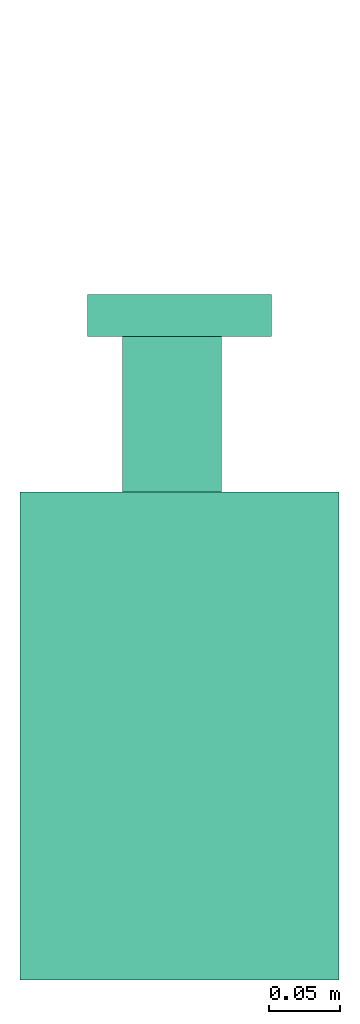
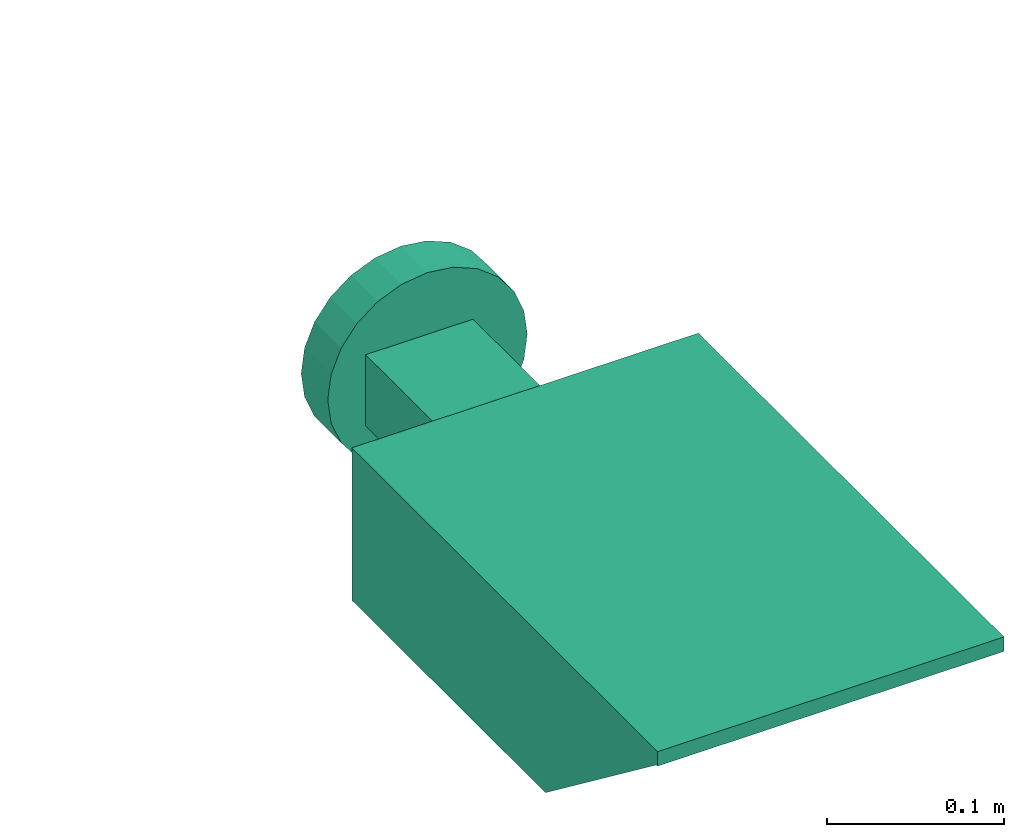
# One storey, part 2 of 2: 1 flow terminal.
"""IFC2X3 building model written with IfcOpenShell, lengths in millimetres."""

from ifc_helpers import new_model, entity, si_unit, converted_unit, derived_unit, direction, frame, origin, origin_with_axes, place, context, subcontext, project, spatial, faceted_brep, source, transform, mapped, material, type_object, element, save


model = new_model("IFC2X3")

# Units and contexts
model_context = context("Model", 3, precision=0.01, world=origin(), true_north=direction((6.12303176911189e-17, 1.0)))
plan_context = context("Plan", 3, precision=1e-05, world=origin_with_axes())
body_context = subcontext(model_context, "Body", "Model", "MODEL_VIEW")
ifc_project = project(units=[converted_unit("PLANEANGLEUNIT", "DEGREE", entity("IfcPositiveLengthMeasure", 0.0174532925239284), si_unit("PLANEANGLEUNIT", "RADIAN"), dimensions=[0, 0, 0, 0, 0, 0, 0]), si_unit("AREAUNIT", "SQUARE_METRE"), si_unit("LENGTHUNIT", "METRE", prefix="MILLI"), si_unit("MASSUNIT", "GRAM", prefix="KILO"), si_unit("POWERUNIT", "WATT"), si_unit("PRESSUREUNIT", "PASCAL"), si_unit("FORCEUNIT", "NEWTON", prefix="KILO"), si_unit("ELECTRICVOLTAGEUNIT", "VOLT"), si_unit("ELECTRICCURRENTUNIT", "AMPERE"), si_unit("THERMODYNAMICTEMPERATUREUNIT", "DEGREE_CELSIUS"), si_unit("TIMEUNIT", "SECOND"), si_unit("VOLUMEUNIT", "CUBIC_METRE"), derived_unit("LINEARVELOCITYUNIT", [(si_unit("LENGTHUNIT", "METRE"), 1), (si_unit("TIMEUNIT", "SECOND"), -1)]), derived_unit("VOLUMETRICFLOWRATEUNIT", [(si_unit("VOLUMEUNIT", "CUBIC_METRE"), 1), (si_unit("TIMEUNIT", "SECOND"), -1)]), derived_unit("THERMALTRANSMITTANCEUNIT", [(si_unit("POWERUNIT", "WATT"), 1), (si_unit("THERMODYNAMICTEMPERATUREUNIT", "KELVIN"), -1), (si_unit("AREAUNIT", "SQUARE_METRE"), -1)]), derived_unit("SOUNDPRESSUREUNIT", [(si_unit("PRESSUREUNIT", "PASCAL"), 1)])], contexts=[model_context, plan_context])

# Site, building, storey
site_placement = place(None, frame((2314154.5009392, 1029894.10887124, 0.0), z_axis=(0.0, 0.0, 1.0), x_axis=(1.0, 0.0, 0.0)))
site = spatial("IfcSite", under=ifc_project, at=site_placement, Name="Default", CompositionType="ELEMENT")
building_placement = place(site_placement, origin_with_axes())
building = spatial("IfcBuilding", under=site, at=building_placement, CompositionType="ELEMENT")
storey_placement = place(building_placement, frame((0.0, 0.0, 7570.0), z_axis=(0.0, 0.0, 1.0), x_axis=(1.0, 0.0, 0.0)))
storey = spatial("IfcBuildingStorey", under=building, at=storey_placement, Name="XX - C +7,57 TB U1", CompositionType="ELEMENT", Elevation=7570.0)

# Flow terminal
ifc_material = material(Name="BEGA-UP-LIGHT")
light_fixture_type = type_object("IfcLightFixtureType", Name="Værnes_Lysarmatur_søyle_D trail NORD:UP 16", PredefinedType="NOTDEFINED", material=ifc_material)
shared_shape = source(origin(), body_context, "Body", "Brep", [
    faceted_brep([(115.647670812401, -1009.59023979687, -6334.35078626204), (115.6476708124, -664.590239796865, -6334.35078626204), (-110.0, -664.590239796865, -6334.35078626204), (-110.0, -1009.59023979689, -6334.35078626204), (-110.0, -883.141667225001, -6439.35078626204), (-110.0, -664.590239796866, -6439.35078626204), (115.6476708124, -664.590239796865, -6439.35078626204), (115.647670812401, -883.141667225, -6439.35078626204), (115.647670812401, -1009.59023979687, -6344.35078626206), (115.647670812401, -1008.32244356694, -6344.35078626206), (-110.0, -1009.59023979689, -6344.35078626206), (-110.0, -1008.32244356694, -6344.35078626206), (32.4692960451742, -664.590239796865, -6362.32282958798), (32.4692960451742, -664.590239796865, -6411.3787429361), (-37.4692960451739, -664.590239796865, -6411.3787429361), (-37.4692960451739, -664.590239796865, -6362.32282958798), (-37.4692960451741, -554.590239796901, -6362.32282958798), (-37.4692960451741, -554.590239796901, -6411.3787429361), (32.469296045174, -554.5902397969, -6411.3787429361), (32.469296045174, -554.5902397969, -6362.32282958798), (-13.9994025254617, -554.590239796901, -6322.03765087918), (-29.6761645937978, -554.590239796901, -6328.53117834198), (-43.1381053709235, -554.590239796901, -6338.86088881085), (-53.4678158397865, -554.590239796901, -6352.32282958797), (-59.9613433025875, -554.590239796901, -6367.99959165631), (-62.1761645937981, -554.590239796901, -6384.82282958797), (2.82383540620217, -554.590239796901, -6319.82282958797), (19.647073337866, -554.590239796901, -6322.03765087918), (35.3238354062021, -554.5902397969, -6328.53117834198), (48.7857761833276, -554.5902397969, -6338.86088881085), (59.1154866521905, -554.5902397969, -6352.32282958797), (65.6090141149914, -554.5902397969, -6367.99959165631), (67.8238354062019, -554.5902397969, -6384.82282958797), (-13.9994025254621, -554.590239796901, -6447.60800829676), (2.82383540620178, -554.590239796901, -6449.82282958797), (65.6090141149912, -554.5902397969, -6401.64606751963), (59.1154866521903, -554.5902397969, -6417.32282958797), (48.7857761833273, -554.5902397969, -6430.7847703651), (35.3238354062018, -554.5902397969, -6441.11448083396), (19.6470733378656, -554.590239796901, -6447.60800829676), (-59.9613433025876, -554.590239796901, -6401.64606751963), (-53.4678158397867, -554.590239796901, -6417.32282958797), (-43.1381053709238, -554.590239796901, -6430.7847703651), (-29.6761645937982, -554.590239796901, -6441.11448083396), (-13.9994025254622, -524.590239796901, -6447.60800829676), (-29.6761645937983, -524.590239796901, -6441.11448083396), (-43.1381053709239, -524.590239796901, -6430.7847703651), (-53.4678158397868, -524.590239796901, -6417.32282958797), (-59.9613433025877, -524.590239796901, -6401.64606751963), (-62.1761645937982, -524.590239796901, -6384.82282958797), (-59.9613433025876, -524.590239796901, -6367.99959165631), (-53.4678158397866, -524.590239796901, -6352.32282958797), (-43.1381053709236, -524.590239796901, -6338.86088881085), (-29.6761645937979, -524.590239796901, -6328.53117834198), (-13.9994025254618, -524.590239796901, -6322.03765087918), (2.82383540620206, -524.590239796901, -6319.82282958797), (19.6470733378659, -524.5902397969, -6322.03765087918), (35.323835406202, -524.5902397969, -6328.53117834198), (48.7857761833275, -524.5902397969, -6338.86088881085), (59.1154866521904, -524.5902397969, -6352.32282958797), (65.6090141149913, -524.5902397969, -6367.99959165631), (67.8238354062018, -524.5902397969, -6384.82282958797), (65.6090141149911, -524.5902397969, -6401.64606751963), (59.1154866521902, -524.5902397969, -6417.32282958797), (48.7857761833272, -524.5902397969, -6430.7847703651), (35.3238354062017, -524.5902397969, -6441.11448083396), (19.6470733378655, -524.5902397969, -6447.60800829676), (2.82383540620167, -524.590239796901, -6449.82282958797)], [[[0, 1, 2, 3]], [[4, 5, 6, 7]], [[7, 6, 1, 0, 8, 9]], [[0, 3, 10, 8]], [[10, 3, 2, 5, 4, 11]], [[1, 12, 2]], [[12, 1, 13]], [[6, 13, 1]], [[13, 6, 5]], [[14, 5, 2]], [[5, 14, 13]], [[15, 2, 12]], [[2, 15, 14]], [[9, 11, 4, 7]], [[8, 10, 11, 9]], [[15, 16, 17, 14]], [[13, 18, 19, 12]], [[16, 15, 12, 19]], [[14, 17, 18, 13]], [[16, 20, 21]], [[16, 21, 22]], [[23, 16, 22]], [[16, 23, 24]], [[24, 25, 16]], [[20, 16, 19]], [[17, 16, 25]], [[26, 20, 19]], [[19, 27, 26]], [[27, 19, 28]], [[19, 29, 28]], [[29, 19, 30]], [[31, 30, 19]], [[31, 19, 32]], [[32, 19, 18]], [[33, 18, 17]], [[18, 33, 34]], [[32, 18, 35]], [[35, 18, 36]], [[36, 18, 37]], [[38, 37, 18]], [[18, 39, 38]], [[18, 34, 39]], [[17, 25, 40]], [[40, 41, 17]], [[17, 41, 42]], [[17, 42, 43]], [[43, 33, 17]], [[44, 45, 46, 47, 48, 49, 50, 51, 52, 53, 54, 55, 56, 57, 58, 59, 60, 61, 62, 63, 64, 65, 66, 67]], [[60, 31, 32, 61]], [[59, 30, 31, 60]], [[28, 29, 58, 57]], [[59, 58, 29, 30]], [[27, 28, 57, 56]], [[26, 27, 56, 55]], [[54, 20, 26, 55]], [[53, 21, 20, 54]], [[23, 22, 52, 51]], [[53, 52, 22, 21]], [[24, 23, 51, 50]], [[25, 24, 50, 49]], [[48, 40, 25, 49]], [[47, 41, 40, 48]], [[43, 42, 46, 45]], [[47, 46, 42, 41]], [[33, 43, 45, 44]], [[34, 33, 44, 67]], [[66, 39, 34, 67]], [[65, 38, 39, 66]], [[62, 61, 32, 35]], [[64, 37, 38, 65]], [[63, 36, 37, 64]], [[63, 62, 35, 36]]]),
])
flow_terminal_placement = place(storey_placement, frame((101357.193540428, -39686.7531300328, 12070.0), z_axis=(0.0, 0.0, 1.0), x_axis=(1.0, 0.0, 0.0)))
element("IfcFlowTerminal", 1, at=flow_terminal_placement, inside=storey, type_object=light_fixture_type, material=ifc_material, Name="Værnes_Lysarmatur_søyle_D trail NORD:UP 16", ObjectType="Værnes_Lysarmatur_søyle_D trail NORD:UP 16", context=body_context, shape_type="MappedRepresentation", body=[
    mapped(shared_shape, transform((0.0, 0.0, 0.0), scale=1.0)),
])

save(model, "model.ifc")
